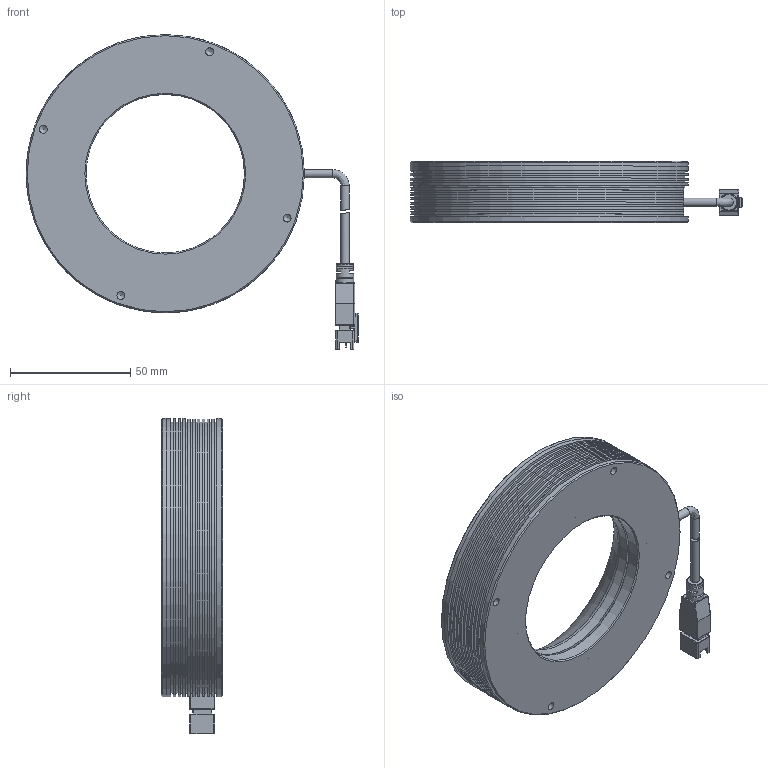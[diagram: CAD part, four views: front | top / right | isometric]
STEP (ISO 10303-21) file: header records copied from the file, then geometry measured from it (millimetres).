
FILE_DESCRIPTION (( 'STEP AP203' ), '1' );
FILE_NAME ('CST-HRS116-蚾饜极.STEP', '2021-04-01T09:56:09', ( '' ), ( '' ), 'SwSTEP 2.0', 'SolidWorks 2018', '' );
FILE_SCHEMA (( 'CONFIG_CONTROL_DESIGN' ));
Length unit declared in the file: millimetre
Products named in the file (2): CST-HRS116-蚾饜极
Bounding box: 138.29 x 25.5 x 131.23 mm (x, y, z)
Surface area: 63489.4 mm2 (no closed solid volume)
Topology: 0 solids, 4 shells, 307 faces, 794 edges, 500 vertices
Faces by surface type: plane 152, cylinder 103, cone 22, bspline 18, torus 12
Full cylindrical faces by diameter (mm): 1.6 x8, 2.3 x4, 3.3 x4, 3.5 x3, 6.8 x1, 66 x2, 70 x2, 103 x1, 113 x4, 116 x6
Entity records: 9508 total; most frequent: CARTESIAN_POINT 2285, DIRECTION 1473, ORIENTED_EDGE 1357, EDGE_CURVE 702, AXIS2_PLACEMENT_3D 525, VERTEX_POINT 482, LINE 423, VECTOR 423
